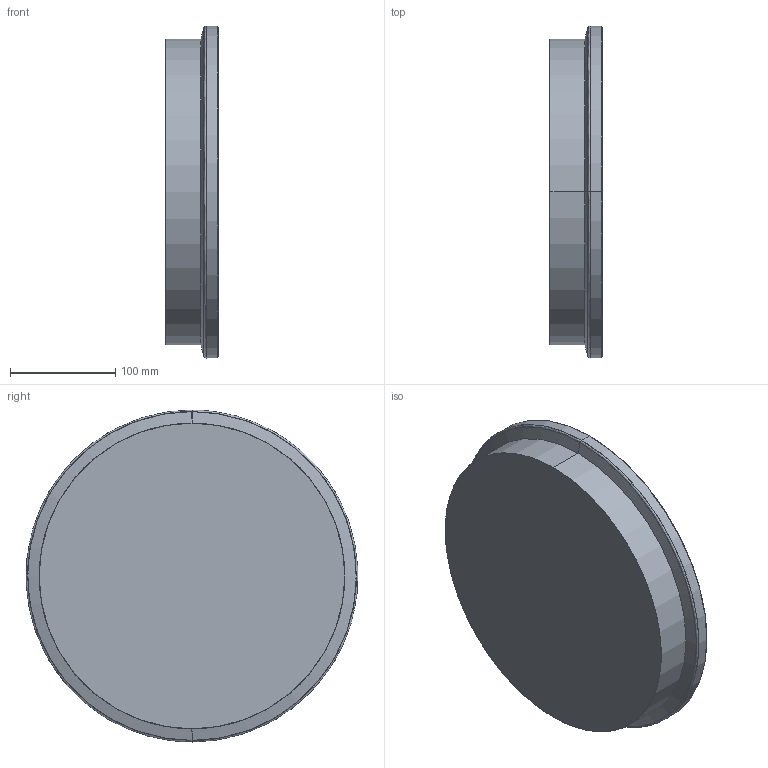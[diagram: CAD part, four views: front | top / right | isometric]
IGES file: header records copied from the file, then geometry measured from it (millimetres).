
Start section: SolidWorks IGES file using analytic representation for surfaces
Global section: file name: B:\DM\Robotics\SEROP_PROJ\Product Development\DevelopmentProjects\HD\3_Design PRMD\4_Struktur SAP o CAD\Lättmodeller\IRB8700_550-420\IRB8700_550-420_IRC5_IGES_j\IRB8700_550-420_IRC5_rev00_LINK6_CAD.IGS; native system: SolidWorks 2014; preprocessor: SolidWorks 2014; author: sepehak; date: 150604.100603; units: millimetre
Bounding box: 49.5 x 315 x 315 mm (x, y, z)
Surface area: 225058.3 mm2 (no closed solid volume)
Topology: 0 solids, 0 shells, 142 faces, 1560 edges, 1526 vertices
Faces by surface type: revolution 122, bspline 20
